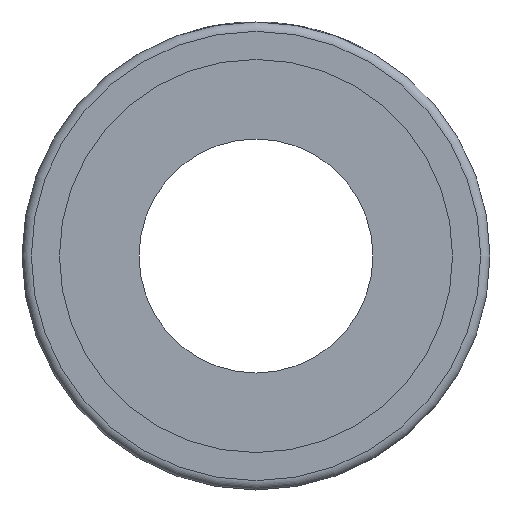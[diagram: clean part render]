
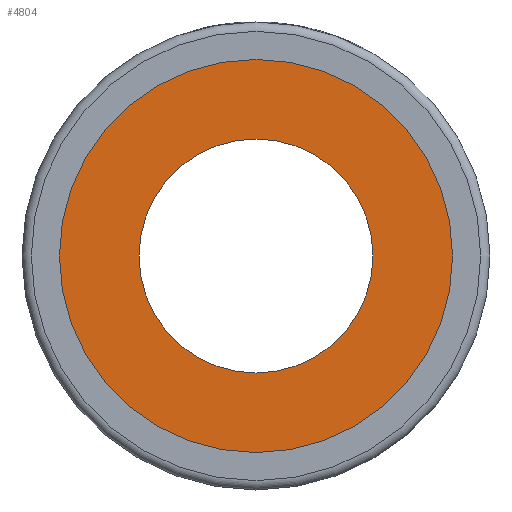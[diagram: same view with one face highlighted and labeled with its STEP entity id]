
A CAD part, left-side view. The second image highlights one B-rep face of the part: STEP entity #4804.
In plain terms, the highlighted planar face has unit normal (-1, 0, 0).
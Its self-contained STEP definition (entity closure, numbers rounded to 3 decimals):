
#109=PLANE('',#5180);
#514=CIRCLE('',#5177,3.36);
#516=CIRCLE('',#5181,2.);
#823=ORIENTED_EDGE('',*,*,#2268,.F.);
#824=ORIENTED_EDGE('',*,*,#2266,.F.);
#2266=EDGE_CURVE('',#2992,#2992,#514,.T.);
#2268=EDGE_CURVE('',#2994,#2994,#516,.T.);
#2992=VERTEX_POINT('',#7369);
#2994=VERTEX_POINT('',#7375);
#4111=EDGE_LOOP('',(#823));
#4112=EDGE_LOOP('',(#824));
#4455=FACE_BOUND('',#4111,.T.);
#4456=FACE_BOUND('',#4112,.T.);
#4804=ADVANCED_FACE('',(#4455,#4456),#109,.T.);
#5177=AXIS2_PLACEMENT_3D('',#7368,#5684,#5685);
#5180=AXIS2_PLACEMENT_3D('',#7373,#5690,#5691);
#5181=AXIS2_PLACEMENT_3D('',#7374,#5692,#5693);
#5684=DIRECTION('',(1.,0.,0.));
#5685=DIRECTION('',(0.,-1.,0.));
#5690=DIRECTION('',(-1.,0.,0.));
#5691=DIRECTION('',(0.,0.,1.));
#5692=DIRECTION('',(-1.,0.,0.));
#5693=DIRECTION('',(0.,0.,1.));
#7368=CARTESIAN_POINT('',(-5.88,0.,0.));
#7369=CARTESIAN_POINT('',(-5.88,-3.36,0.));
#7373=CARTESIAN_POINT('',(-5.88,0.,0.));
#7374=CARTESIAN_POINT('',(-5.88,0.,0.));
#7375=CARTESIAN_POINT('',(-5.88,0.,2.));
